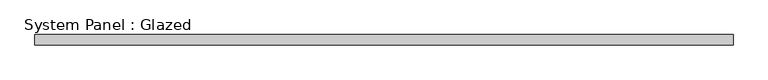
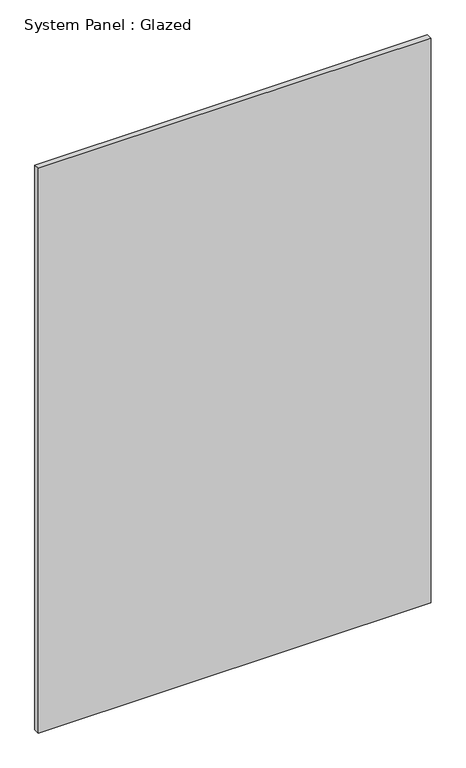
"""IFC4 building model written with IfcOpenShell, lengths in millimetres: plate geometry, System Panel : Glazed."""

import ifcopenshell
import ifcopenshell.guid

model = None  # the IFC model being written
_history = None  # IfcOwnerHistory: only IFC2X3 demands one
_inside = {}  # id of a spatial element -> (the spatial element, [elements in it])
_under = {}  # id of a project, library or spatial element -> (it, [spatial elements below it])
_declared = {}  # id of a project -> (the project, [libraries it declares])
_typed = {}  # id of a type object -> (the type object, [elements of that type])
_made_of = {}  # id of a material, layer set ... -> (it, [elements and type objects made of it])


def new_model(schema):
    """Start an empty IFC model of exactly this schema.

    Asked for "IFC4X3", IfcOpenShell would pick the latest addendum, in which some entities
    have other attributes; the version numbers below select the first issue.
    IFC2X3 requires an IfcOwnerHistory on every rooted entity: one is made here for all.
    """
    global model, _history
    if schema == "IFC4X3":
        model = ifcopenshell.file(schema_version=(4, 3, 0, 0))
    else:
        model = ifcopenshell.file(schema=schema)
    _inside.clear()
    _under.clear()
    _declared.clear()
    _typed.clear()
    _made_of.clear()
    _history = None
    if model.schema == "IFC2X3":
        org = make("IfcOrganization", Name="unknown")
        user = make(
            "IfcPersonAndOrganization",
            ThePerson=make("IfcPerson", FamilyName="unknown"),
            TheOrganization=org,
        )
        app = make(
            "IfcApplication",
            ApplicationDeveloper=org,
            Version="unknown",
            ApplicationFullName="unknown",
            ApplicationIdentifier="unknown",
        )
        _history = make(
            "IfcOwnerHistory",
            OwningUser=user,
            OwningApplication=app,
            ChangeAction="ADDED",
            CreationDate=0,
        )
    return model


def make(cls, **values):
    """One entity of the class cls with the attributes given. An attribute that is None is left unset."""
    return model.create_entity(
        cls, **{name: value for name, value in values.items() if value is not None}
    )


def rooted(cls, **values):
    """An entity with a GlobalId (a new one), such as an element, a storey or a relation."""
    return make(cls, GlobalId=ifcopenshell.guid.new(), OwnerHistory=_history, **values)


def si_unit(unit_type, name, prefix=None):
    """IfcSIUnit, for example si_unit("LENGTHUNIT", "METRE", prefix="MILLI")."""
    return make("IfcSIUnit", UnitType=unit_type, Prefix=prefix, Name=name)


def assignment(units):
    """IfcUnitAssignment: the units of a project."""
    return None if units is None else make("IfcUnitAssignment", Units=units)


def point(xyz):
    """IfcCartesianPoint."""
    return None if xyz is None else make("IfcCartesianPoint", Coordinates=xyz)


def direction(xyz):
    """IfcDirection."""
    return None if xyz is None else make("IfcDirection", DirectionRatios=xyz)


def frame(location, z_axis=None, x_axis=None):
    """IfcAxis2Placement3D, a coordinate frame: its origin and axes. An axis left out is left unset."""
    return make(
        "IfcAxis2Placement3D",
        Location=point(location),
        Axis=direction(z_axis),
        RefDirection=direction(x_axis),
    )


def origin():
    """The frame at (0, 0, 0) with its axes left unset."""
    return frame((0.0, 0.0, 0.0))


def origin_with_axes():
    """The frame at (0, 0, 0) with the z axis (0, 0, 1) and the x axis (1, 0, 0) written out."""
    return frame((0.0, 0.0, 0.0), z_axis=(0.0, 0.0, 1.0), x_axis=(1.0, 0.0, 0.0))


def place(relative_to, where):
    """IfcLocalPlacement: puts the frame where relative to a parent placement (None: the world)."""
    return make(
        "IfcLocalPlacement", PlacementRelTo=relative_to, RelativePlacement=where
    )


def context(
    kind, dimensions, precision=None, world=None, true_north=None, identifier=None
):
    """IfcGeometricRepresentationContext, for example the 3D "Model" context."""
    return make(
        "IfcGeometricRepresentationContext",
        ContextIdentifier=identifier,
        ContextType=kind,
        CoordinateSpaceDimension=dimensions,
        Precision=precision,
        WorldCoordinateSystem=world,
        TrueNorth=true_north,
    )


def project(units=None, contexts=None):
    """IfcProject with its units and contexts."""
    return rooted(
        "IfcProject",
        Name="project",
        RepresentationContexts=contexts,
        UnitsInContext=assignment(units),
    )


def spatial(cls, under=None, at=None, **own):
    """A site, building, storey or space (cls), placed at a placement, below another one or the project."""
    s = rooted(cls, ObjectPlacement=at, **own)
    if under is not None:
        _under.setdefault(under.id(), (under, []))[1].append(s)
    return s


def polyline(points):
    """IfcPolyline through the points."""
    return make("IfcPolyline", Points=[point(p) for p in points])


def outline(outer, holes=None, kind="AREA"):
    """IfcArbitraryClosedProfileDef: a profile drawn as a closed curve; with holes, ...WithVoids."""
    if holes is None:
        return make("IfcArbitraryClosedProfileDef", ProfileType=kind, OuterCurve=outer)
    return make(
        "IfcArbitraryProfileDefWithVoids",
        ProfileType=kind,
        OuterCurve=outer,
        InnerCurves=holes,
    )


def extrude(swept, where, along, depth):
    """IfcExtrudedAreaSolid: the profile swept, set in the frame where, extruded along a direction by depth."""
    return make(
        "IfcExtrudedAreaSolid",
        SweptArea=swept,
        Position=where,
        ExtrudedDirection=direction(along),
        Depth=depth,
    )


def shape(context_of_items, identifier, shape_type, items):
    """IfcShapeRepresentation: the items that make up one representation, for example the "Body"."""
    return make(
        "IfcShapeRepresentation",
        ContextOfItems=context_of_items,
        RepresentationIdentifier=identifier,
        RepresentationType=shape_type,
        Items=items,
    )


def source(mapping_origin, context_of_items, identifier, shape_type, items):
    """IfcRepresentationMap: a shape defined once, which mapped items show again and again."""
    return make(
        "IfcRepresentationMap",
        MappingOrigin=mapping_origin,
        MappedRepresentation=shape(context_of_items, identifier, shape_type, items),
    )


def transform(
    local_origin,
    x_axis=None,
    y_axis=None,
    z_axis=None,
    scale=None,
    scale2=None,
    scale3=None,
    uniform=True,
):
    """IfcCartesianTransformationOperator3D, or its non-uniform kind. x_axis, y_axis, z_axis: its Axis1, 2, 3."""
    if uniform:
        return make(
            "IfcCartesianTransformationOperator3D",
            Axis1=direction(x_axis),
            Axis2=direction(y_axis),
            LocalOrigin=point(local_origin),
            Scale=scale,
            Axis3=direction(z_axis),
        )
    return make(
        "IfcCartesianTransformationOperator3DnonUniform",
        Axis1=direction(x_axis),
        Axis2=direction(y_axis),
        LocalOrigin=point(local_origin),
        Scale=scale,
        Axis3=direction(z_axis),
        Scale2=scale2,
        Scale3=scale3,
    )


def mapped(mapping_source, mapping_target):
    """IfcMappedItem: shows the shape of a source again, moved by a transform."""
    return make(
        "IfcMappedItem", MappingSource=mapping_source, MappingTarget=mapping_target
    )


def made_of(thing, what):
    """Note that an element or type object is made of a material, layer set ...; save() writes the relation."""
    if what is not None:
        _made_of.setdefault(what.id(), (what, []))[1].append(thing)
    return thing


def element(
    cls,
    number,
    at=None,
    inside=None,
    cuts=None,
    type_object=None,
    material=None,
    context=None,
    identifier="Body",
    shape_type=None,
    held_by="IfcProductDefinitionShape",
    body=None,
    shapes=None,
    **own,
):
    """One element of the class cls, such as IfcWall. Its Tag is "e" and its number.

    at: its placement. inside: the storey or other place that contains it. cuts: it is an
    opening in that element (IfcRelVoidsElement). A single representation is given by context,
    identifier, shape_type and body (its items); several are given by shapes. held_by: the class
    of the entity that holds the representations. save() writes the other relations.
    """
    e = rooted(cls, Tag="e%d" % number, ObjectPlacement=at, **own)
    if body is not None:
        shapes = [shape(context, identifier, shape_type, body)]
    if shapes is not None:
        e.Representation = make(held_by, Representations=shapes)
    if inside is not None:
        _inside.setdefault(inside.id(), (inside, []))[1].append(e)
    if cuts is not None:
        rooted(
            "IfcRelVoidsElement", RelatingBuildingElement=cuts, RelatedOpeningElement=e
        )
    if type_object is not None:
        _typed.setdefault(type_object.id(), (type_object, []))[1].append(e)
    return made_of(e, material)


def aggregate(whole, parts):
    """IfcRelAggregates: a whole, such as a stair, and the parts it consists of."""
    return rooted("IfcRelAggregates", RelatingObject=whole, RelatedObjects=parts)


def save(model, path):
    """Write the relations noted so far, then the file.

    IfcRelAggregates (storeys below a building ...), IfcRelContainedInSpatialStructure (elements
    in a storey), IfcRelDefinesByType, IfcRelAssociatesMaterial and IfcRelDeclares: one each for
    every whole, place, type object, material and project.
    """
    for whole, parts in _under.values():
        aggregate(whole, parts)
    for where, things in _inside.values():
        rooted(
            "IfcRelContainedInSpatialStructure",
            RelatedElements=things,
            RelatingStructure=where,
        )
    for kind, things in _typed.values():
        rooted("IfcRelDefinesByType", RelatedObjects=things, RelatingType=kind)
    for what, things in _made_of.values():
        rooted("IfcRelAssociatesMaterial", RelatedObjects=things, RelatingMaterial=what)
    for by, libraries in _declared.values():
        rooted("IfcRelDeclares", RelatingContext=by, RelatedDefinitions=libraries)
    model.write(path)


def system_panel_glazed_cd5425ed(model_context):
    return source(origin(), model_context, "Body", "SweptSolid", [
        extrude(outline(polyline([(874.7173453, 19.05), (-874.7173453, 19.05), (-874.7173453, 44.45), (874.7173453, 44.45), (874.7173453, 19.05)])), origin_with_axes(), (0.0, 0.0, 1.0), 2657.2475524),
    ])


if __name__ == "__main__":
    model = new_model("IFC4")
    model_context = context("Model", 3, world=origin())
    ifc_project = project(units=[si_unit("LENGTHUNIT", "METRE", prefix="MILLI")], contexts=[model_context])
    site = spatial("IfcSite", under=ifc_project)
    building = spatial("IfcBuilding", under=site)
    placement = place(None, origin())
    system_panel_glazed_shape = system_panel_glazed_cd5425ed(model_context)
    element("IfcPlate", 1, ObjectType="System Panel : Glazed", at=placement, inside=building, context=model_context, shape_type="MappedRepresentation", body=[
        mapped(system_panel_glazed_shape, transform((0.0, 0.0, 0.0), x_axis=(1.0, 0.0, 0.0), y_axis=(0.0, 1.0, 0.0), z_axis=(0.0, 0.0, 1.0))),
    ])
    save(model, "model.ifc")
